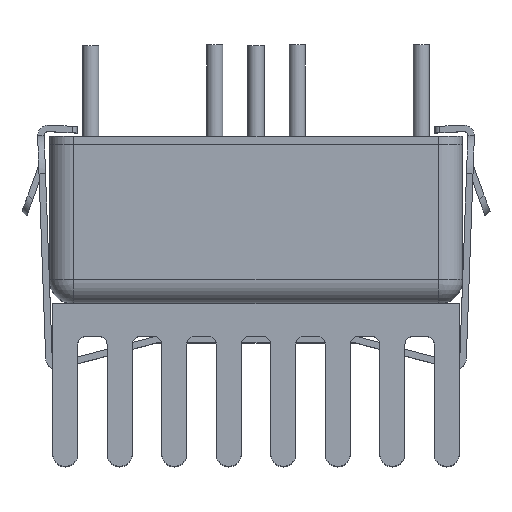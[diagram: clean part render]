
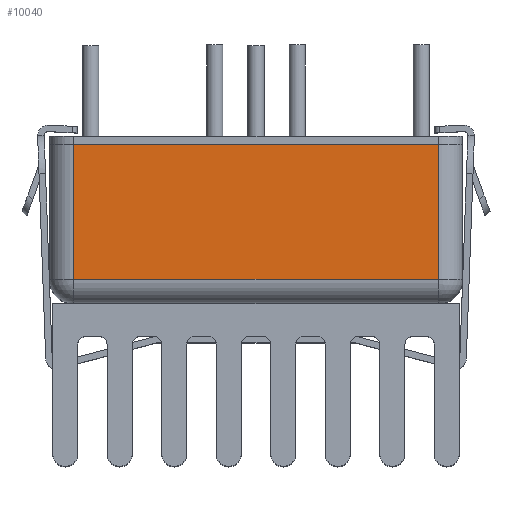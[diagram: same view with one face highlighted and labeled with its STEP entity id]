
A CAD part, top view. The second image highlights one B-rep face of the part: STEP entity #10040.
In plain terms, the highlighted planar face has unit normal (0, 0, 1).
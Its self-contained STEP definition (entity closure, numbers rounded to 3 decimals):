
#185 = DIRECTION ( 'NONE',  ( 1., 0., 0. ) ) ;
#190 = EDGE_CURVE ( 'NONE', #10372, #16861, #6243, .T. ) ;
#821 = VERTEX_POINT ( 'NONE', #4446 ) ;
#936 = VERTEX_POINT ( 'NONE', #15266 ) ;
#1145 = DIRECTION ( 'NONE',  ( 0., 1., 0. ) ) ;
#1568 = AXIS2_PLACEMENT_3D ( 'NONE', #5053, #13564, #185 ) ;
#2126 = EDGE_CURVE ( 'NONE', #16861, #821, #9120, .T. ) ;
#2421 = CARTESIAN_POINT ( 'NONE',  ( 11.2, -8.3, 12.7 ) ) ;
#2481 = ORIENTED_EDGE ( 'NONE', *, *, #2126, .F. ) ;
#2931 = ORIENTED_EDGE ( 'NONE', *, *, #12733, .T. ) ;
#3505 = CARTESIAN_POINT ( 'NONE',  ( -11.2, -9.8, 12.7 ) ) ;
#3842 = EDGE_LOOP ( 'NONE', ( #11197, #2931, #6911, #2481 ) ) ;
#4446 = CARTESIAN_POINT ( 'NONE',  ( 11.2, 0., 12.7 ) ) ;
#4643 = DIRECTION ( 'NONE',  ( 1., 0., 0. ) ) ;
#5053 = CARTESIAN_POINT ( 'NONE',  ( -11.2, -9.8, 12.7 ) ) ;
#5250 = DIRECTION ( 'NONE',  ( 1., 0., 0. ) ) ;
#5372 = VECTOR ( 'NONE', #1145, 1000. ) ;
#6021 = CARTESIAN_POINT ( 'NONE',  ( -11.2, 0., 12.7 ) ) ;
#6236 = FACE_OUTER_BOUND ( 'NONE', #3842, .T. ) ;
#6243 = LINE ( 'NONE', #3505, #7798 ) ;
#6329 = PLANE ( 'NONE',  #1568 ) ;
#6911 = ORIENTED_EDGE ( 'NONE', *, *, #11725, .T. ) ;
#7798 = VECTOR ( 'NONE', #12479, 1000. ) ;
#7957 = VECTOR ( 'NONE', #5250, 1000. ) ;
#9120 = LINE ( 'NONE', #10792, #9501 ) ;
#9501 = VECTOR ( 'NONE', #4643, 1000. ) ;
#10040 = ADVANCED_FACE ( 'NONE', ( #6236 ), #6329, .T. ) ;
#10372 = VERTEX_POINT ( 'NONE', #12454 ) ;
#10792 = CARTESIAN_POINT ( 'NONE',  ( -11.2, 0., 12.7 ) ) ;
#11197 = ORIENTED_EDGE ( 'NONE', *, *, #190, .F. ) ;
#11725 = EDGE_CURVE ( 'NONE', #936, #821, #18905, .T. ) ;
#12454 = CARTESIAN_POINT ( 'NONE',  ( -11.2, -8.3, 12.7 ) ) ;
#12479 = DIRECTION ( 'NONE',  ( 0., 1., 0. ) ) ;
#12733 = EDGE_CURVE ( 'NONE', #10372, #936, #15683, .T. ) ;
#12960 = CARTESIAN_POINT ( 'NONE',  ( 11.2, -9.8, 12.7 ) ) ;
#13564 = DIRECTION ( 'NONE',  ( 0., 0., 1. ) ) ;
#15266 = CARTESIAN_POINT ( 'NONE',  ( 11.2, -8.3, 12.7 ) ) ;
#15683 = LINE ( 'NONE', #2421, #7957 ) ;
#16861 = VERTEX_POINT ( 'NONE', #6021 ) ;
#18905 = LINE ( 'NONE', #12960, #5372 ) ;
